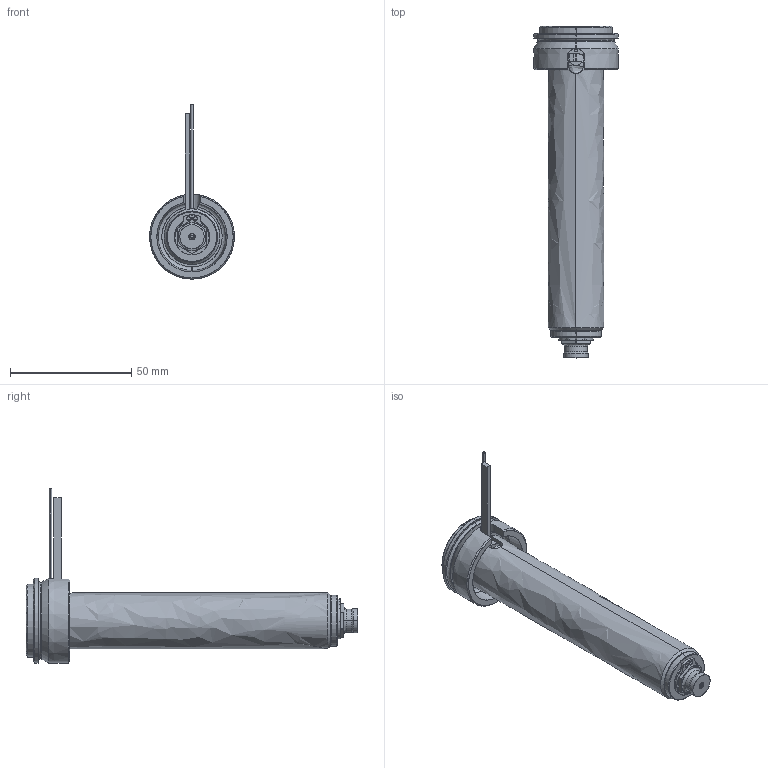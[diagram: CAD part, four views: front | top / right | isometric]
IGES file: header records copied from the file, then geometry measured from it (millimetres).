
Start section: SolidWorks IGES file using analytic representation for surfaces
Global section: file name: C:\Documents and Settings\ws-20\Desktop\TEM\UGEP3153-M-A-0 [Øf-1.10 P-0 ØC-6.0].IGS; native system: SolidWorks 2012; preprocessor: SolidWorks 2012; author: ws-20; date: 120404.080824; units: millimetre
Bounding box: 35 x 137 x 71.9 mm (x, y, z)
Surface area: 27104 mm2 (no closed solid volume)
Topology: 0 solids, 0 shells, 123 faces, 1794 edges, 1794 vertices
Faces by surface type: revolution 74, bspline 49
